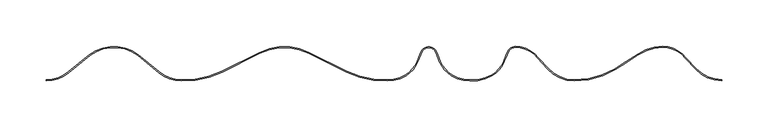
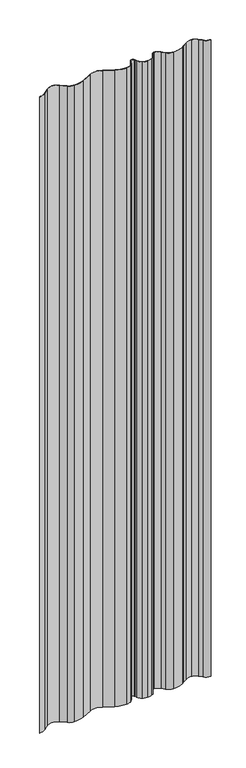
"""IFC4 building model written with IfcOpenShell, lengths in millimetres: plate geometry, Ritmica Vertical 728 : Ritmica Vertical 728."""

from ifc_helpers import new_model, si_unit, point, frame_2d, origin, origin_with_axes, place, context, project, spatial, polyline, circle_curve, trimmed, segment, composite_curve, outline, extrude, source, transform, mapped, element, save


def plate_9ac5e7aa(model_context):
    return source(origin(), model_context, "Body", "SweptSolid", [
        extrude(outline(composite_curve([segment(trimmed(circle_curve(frame_2d((364.502108, 38.7918993)), 37.4503244), [point((337.0323415, 13.3372587))], [point((364.5, 1.3415749))], True, "CARTESIAN"), True, "CONTINUOUS"), segment(polyline([(364.5, 1.3415749), (364.5, 0.3415749)]), True, "CONTINUOUS"), segment(trimmed(circle_curve(frame_2d((364.502108, 38.7918993)), 38.4503244), [point((364.5, 0.3415749))], [point((336.2988427, 12.6575679))], False, "CARTESIAN"), True, "CONTINUOUS"), segment(polyline([(336.2988427, 12.6575679), (325.1657095, 24.6720597)]), True, "CONTINUOUS"), segment(trimmed(circle_curve(frame_2d((300.9525254, 5.4383643)), 30.9226992), [point((325.1657095, 24.6720597))], [point((300.9560263, 36.3610633))], True, "CARTESIAN"), True, "CONTINUOUS"), segment(trimmed(circle_curve(frame_2d((301.1224531, -9.8027093)), 46.1640725), [point((300.9560263, 36.3610633))], [point((274.7793668, 28.1072288))], True, "CARTESIAN"), True, "CONTINUOUS"), segment(polyline([(274.7793668, 28.1072288), (257.4191603, 16.951323), (249.9824555, 12.5515061)]), True, "CONTINUOUS"), segment(trimmed(circle_curve(frame_2d((207.0399788, 80.9594003)), 80.769402), [point((249.9824555, 12.5515061))], [point((205.2764454, 0.2092533))], False, "CARTESIAN"), True, "CONTINUOUS"), segment(trimmed(circle_curve(frame_2d((205.28955, 38.6595755)), 38.4503244), [point((205.2764454, 0.2092533))], [point((177.0862848, 12.5252441))], False, "CARTESIAN"), True, "CONTINUOUS"), segment(polyline([(177.0862848, 12.5252441), (165.9530619, 24.5398326)]), True, "CONTINUOUS"), segment(trimmed(circle_curve(frame_2d((141.7483155, 5.3233588)), 30.9053816), [point((165.9530619, 24.5398326))], [point((141.7388151, 36.228739))], True, "CARTESIAN"), True, "CONTINUOUS"), segment(trimmed(circle_curve(frame_2d((141.7412317, 28.3673949)), 7.8613444), [point((141.7388151, 36.228739))], [point((134.6523786, 31.7657618))], True, "CARTESIAN"), True, "CONTINUOUS"), segment(polyline([(134.6523786, 31.7657618), (133.0058364, 28.3311427), (130.1361949, 21.1677072)]), True, "CONTINUOUS"), segment(trimmed(circle_curve(frame_2d((100.7813815, 32.9111851)), 31.6166782), [point((130.1361949, 21.1677072))], [point((117.2712951, 5.9353238))], False, "CARTESIAN"), True, "CONTINUOUS"), segment(trimmed(circle_curve(frame_2d((95.6653979, 42.2927948)), 42.2927948), [point((117.2712951, 5.9353238))], [point((92.9613732, 0.0865305))], False, "CARTESIAN"), True, "CONTINUOUS"), segment(trimmed(circle_curve(frame_2d((92.9958558, 38.5368395)), 38.4503244), [point((92.9613732, 0.0865305))], [point((72.9315296, 5.7366831))], False, "CARTESIAN"), True, "CONTINUOUS"), segment(trimmed(circle_curve(frame_2d((89.429891, 32.7073786)), 31.6166783), [point((72.9315296, 5.7366831))], [point((60.0737631, 20.9671869))], False, "CARTESIAN"), True, "CONTINUOUS"), segment(polyline([(60.0737631, 20.9671869), (57.2049341, 28.1308697), (55.5587687, 31.5656692)]), True, "CONTINUOUS"), segment(trimmed(circle_curve(frame_2d((48.4695428, 28.1680798)), 7.8613445), [point((55.5587687, 31.5656692))], [point((41.3806894, 31.5664465))], True, "CARTESIAN"), True, "CONTINUOUS"), segment(polyline([(41.3806894, 31.5664465), (39.7341474, 28.1318275), (36.864533, 20.9684593)]), True, "CONTINUOUS"), segment(trimmed(circle_curve(frame_2d((7.5096925, 32.7118698)), 31.6166783), [point((36.864533, 20.9684593))], [point((24.0050966, 5.7393654))], False, "CARTESIAN"), True, "CONTINUOUS"), segment(trimmed(circle_curve(frame_2d((3.9443669, 38.5417216)), 38.4503244), [point((24.0050966, 5.7393654))], [point((3.9600247, 0.0914004))], False, "CARTESIAN"), True, "CONTINUOUS"), segment(trimmed(circle_curve(frame_2d((0.6465415, 94.3265403)), 94.293376), [point((3.9600247, 0.0914004))], [point((-40.2469535, 9.3620604))], False, "CARTESIAN"), True, "CONTINUOUS"), segment(polyline([(-40.2469535, 9.3620604), (-80.7920983, 29.7501026)]), True, "CONTINUOUS"), segment(trimmed(circle_curve(frame_2d((-107.297726, -22.960918)), 59.0), [point((-80.7920983, 29.7501026))], [point((-133.7975739, 29.7530086))], True, "CARTESIAN"), True, "CONTINUOUS"), segment(polyline([(-133.7975739, 29.7530086), (-174.3449541, 9.3694122)]), True, "CONTINUOUS"), segment(trimmed(circle_curve(frame_2d((-215.2291326, 94.3383753)), 94.293376), [point((-174.3449541, 9.3694122))], [point((-218.5529494, 0.1035993))], False, "CARTESIAN"), True, "CONTINUOUS"), segment(trimmed(circle_curve(frame_2d((-218.5330922, 38.2350145)), 38.1314203), [point((-218.5529494, 0.1035993))], [point((-242.9420646, 8.9398394))], False, "CARTESIAN"), True, "CONTINUOUS"), segment(polyline([(-242.9420646, 8.9398394), (-265.3517108, 27.6117346)]), True, "CONTINUOUS"), segment(trimmed(circle_curve(frame_2d((-291.1626085, -6.9557602)), 43.1406321), [point((-265.3517108, 27.6117346))], [point((-316.9697159, 27.6145644))], True, "CARTESIAN"), True, "CONTINUOUS"), segment(polyline([(-316.9697159, 27.6145644), (-339.6837236, 8.9450331)]), True, "CONTINUOUS"), segment(trimmed(circle_curve(frame_2d((-364.0894837, 38.2428844)), 38.1314203), [point((-339.6837236, 8.9450331))], [point((-364.0915742, 0.1114641))], False, "CARTESIAN"), True, "CONTINUOUS"), segment(polyline([(-364.0915742, 0.1114641), (-364.0918834, 1.1114641)]), True, "CONTINUOUS"), segment(trimmed(circle_curve(frame_2d((-364.0894837, 38.2428844)), 37.1314203), [point((-364.0918834, 1.1114641))], [point((-340.3237669, 9.7133719))], True, "CARTESIAN"), True, "CONTINUOUS"), segment(polyline([(-340.3237669, 9.7133719), (-317.5893991, 28.3998637)]), True, "CONTINUOUS"), segment(trimmed(circle_curve(frame_2d((-291.1626085, -6.9557602)), 44.1406321), [point((-317.5893991, 28.3998637))], [point((-264.7319415, 28.3969658))], False, "CARTESIAN"), True, "CONTINUOUS"), segment(polyline([(-264.7319415, 28.3969658), (-242.301937, 9.7081081)]), True, "CONTINUOUS"), segment(trimmed(circle_curve(frame_2d((-218.5330922, 38.2350145)), 37.1314203), [point((-242.301937, 9.7081081))], [point((-218.5351278, 1.1035942))], True, "CARTESIAN"), True, "CONTINUOUS"), segment(trimmed(circle_curve(frame_2d((-215.2291326, 94.3383753)), 93.293376), [point((-218.5351278, 1.1035942))], [point((-174.786334, 10.2667746))], True, "CARTESIAN"), True, "CONTINUOUS"), segment(polyline([(-174.786334, 10.2667746), (-134.2467239, 30.646465)]), True, "CONTINUOUS"), segment(trimmed(circle_curve(frame_2d((-107.297726, -22.960918)), 60.0), [point((-134.2467239, 30.646465))], [point((-80.3428504, 30.6435098))], False, "CARTESIAN"), True, "CONTINUOUS"), segment(polyline([(-80.3428504, 30.6435098), (-39.8054751, 10.2593745)]), True, "CONTINUOUS"), segment(trimmed(circle_curve(frame_2d((0.6465415, 94.3265403)), 93.293376), [point((-39.8054751, 10.2593745))], [point((3.9423137, 1.0913972))], True, "CARTESIAN"), True, "CONTINUOUS"), segment(trimmed(circle_curve(frame_2d((3.9443669, 38.5417216)), 37.4503244), [point((3.9423137, 1.0913972))], [point((23.4833655, 6.5924754))], True, "CARTESIAN"), True, "CONTINUOUS"), segment(trimmed(circle_curve(frame_2d((7.5096925, 32.7118698)), 30.6166783), [point((23.4833655, 6.5924754))], [point((35.936159, 21.3401067))], True, "CARTESIAN"), True, "CONTINUOUS"), segment(polyline([(35.936159, 21.3401067), (38.8181393, 28.5343436), (40.478954, 31.9987347)]), True, "CONTINUOUS"), segment(trimmed(circle_curve(frame_2d((48.4695428, 28.1680798)), 8.8613445), [point((40.478954, 31.9987347))], [point((56.4605516, 31.9978586))], False, "CARTESIAN"), True, "CONTINUOUS"), segment(polyline([(56.4605516, 31.9978586), (58.1209864, 28.5332853), (61.0021778, 21.3387325)]), True, "CONTINUOUS"), segment(trimmed(circle_curve(frame_2d((89.429891, 32.7073786)), 30.6166783), [point((61.0021778, 21.3387325))], [point((73.4533542, 6.5897359))], True, "CARTESIAN"), True, "CONTINUOUS"), segment(trimmed(circle_curve(frame_2d((92.9958558, 38.5368395)), 37.4503244), [point((73.4533542, 6.5897359))], [point((92.9938031, 1.0865151))], True, "CARTESIAN"), True, "CONTINUOUS"), segment(trimmed(circle_curve(frame_2d((95.6653979, 42.2927948)), 41.2927948), [point((92.9938031, 1.0865151))], [point((116.7550561, 6.7917917))], True, "CARTESIAN"), True, "CONTINUOUS"), segment(trimmed(circle_curve(frame_2d((100.7813815, 32.9111851)), 30.6166783), [point((116.7550561, 6.7917917))], [point((129.207835, 21.5393896))], True, "CARTESIAN"), True, "CONTINUOUS"), segment(polyline([(129.207835, 21.5393896), (132.0898282, 28.7336588), (133.7506431, 32.1980501)]), True, "CONTINUOUS"), segment(trimmed(circle_curve(frame_2d((141.7412317, 28.3673949)), 8.8613444), [point((133.7506431, 32.1980501))], [point((141.7385077, 37.2287389))], False, "CARTESIAN"), True, "CONTINUOUS"), segment(trimmed(circle_curve(frame_2d((141.7483155, 5.3233588)), 31.9053816), [point((141.7385077, 37.2287389))], [point((166.7123042, 25.1917419))], False, "CARTESIAN"), True, "CONTINUOUS"), segment(polyline([(166.7123042, 25.1917419), (177.8197835, 13.2049349)]), True, "CONTINUOUS"), segment(trimmed(circle_curve(frame_2d((205.28955, 38.6595755)), 37.4503244), [point((177.8197835, 13.2049349))], [point((205.2874969, 1.2092511))], True, "CARTESIAN"), True, "CONTINUOUS"), segment(trimmed(circle_curve(frame_2d((207.0399788, 80.9594003)), 79.769402), [point((205.2874969, 1.2092511))], [point((249.4619, 13.405436))], True, "CARTESIAN"), True, "CONTINUOUS"), segment(polyline([(249.4619, 13.405436), (256.8940788, 17.8025752), (274.2236405, 28.9387881)]), True, "CONTINUOUS"), segment(trimmed(circle_curve(frame_2d((301.1224531, -9.8027093)), 47.1640725), [point((274.2236405, 28.9387881))], [point((300.9542755, 37.3610634))], False, "CARTESIAN"), True, "CONTINUOUS"), segment(trimmed(circle_curve(frame_2d((300.9525254, 5.4383643)), 31.9226992), [point((300.9542755, 37.3610634))], [point((325.9248619, 25.3240659))], False, "CARTESIAN"), True, "CONTINUOUS"), segment(polyline([(325.9248619, 25.3240659), (337.0323415, 13.3372587)]), True, "CONTINUOUS")], self_intersect=False)), origin_with_axes(), (0.0, 0.0, 1.0), 2859.2009216),
    ])


if __name__ == "__main__":
    model = new_model("IFC4")
    model_context = context("Model", 3, world=origin())
    ifc_project = project(units=[si_unit("LENGTHUNIT", "METRE", prefix="MILLI")], contexts=[model_context])
    site = spatial("IfcSite", under=ifc_project)
    building = spatial("IfcBuilding", under=site)
    placement = place(None, origin())
    plate_shape = plate_9ac5e7aa(model_context)
    element("IfcPlate", 1, ObjectType="Ritmica Vertical 728 : Ritmica Vertical 728", at=placement, inside=building, context=model_context, shape_type="MappedRepresentation", body=[
        mapped(plate_shape, transform((0.0, 0.0, 0.0), x_axis=(1.0, 0.0, 0.0), y_axis=(0.0, 1.0, 0.0), z_axis=(0.0, 0.0, 1.0))),
    ])
    save(model, "model.ifc")
